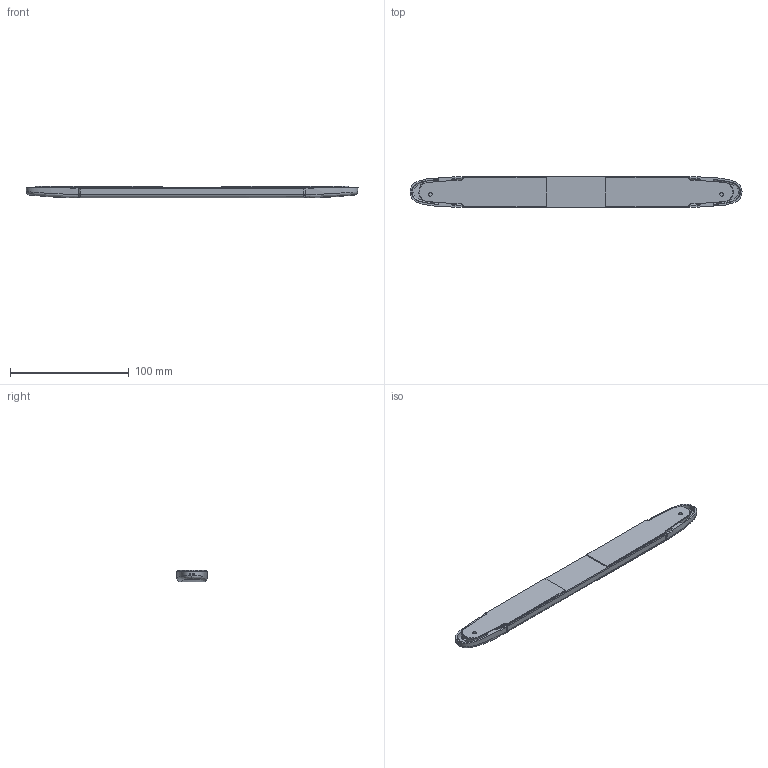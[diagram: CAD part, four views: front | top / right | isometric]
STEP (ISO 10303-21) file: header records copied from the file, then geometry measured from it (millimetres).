
FILE_DESCRIPTION(('CATIA V5 STEP Exchange','CAx-IF Rec.Pracs.--- Model Styling and Organization---1.5--- 2016-08-15','CAx-IF Rec.Pracs.---Supplemental Geometry---1.0---2011-11-01','CAx-IF Rec.Pracs.--- Composite Materials ---1.1---2010-07-15'),'2;1');
FILE_NAME('E:\tmp\ddx\2011210\HELLA_3D_data_LED_interior_lamp_343-606.stp','2022-01-18T07:04:44+00:00',('none'),('none'),'CATIA Version 5-6 Release 2020 SP3 HF9','CATIA V5 STEP AP214 Edition 3 v2','none');
FILE_SCHEMA(('AUTOMOTIVE_DESIGN { 1 0 10303 214 3 1 1 1 }'));
Length unit declared in the file: millimetre
Products named in the file (1): 10000268622_D10_001
Bounding box: 280 x 25.88 x 9.98 mm (x, y, z)
Volume: 57935.2 mm3; surface area: 23380.5 mm2
Topology: 3 solids, 3 shells, 388 faces, 1036 edges, 654 vertices
Faces by surface type: plane 155, bspline 130, cylinder 71, cone 20, torus 12
Entity records: 20700 total; most frequent: CARTESIAN_POINT 12635, ORIENTED_EDGE 2068, EDGE_CURVE 1034, DIRECTION 964, VERTEX_POINT 654, B_SPLINE_CURVE_WITH_KNOTS 504, EDGE_LOOP 394, ADVANCED_FACE 388
